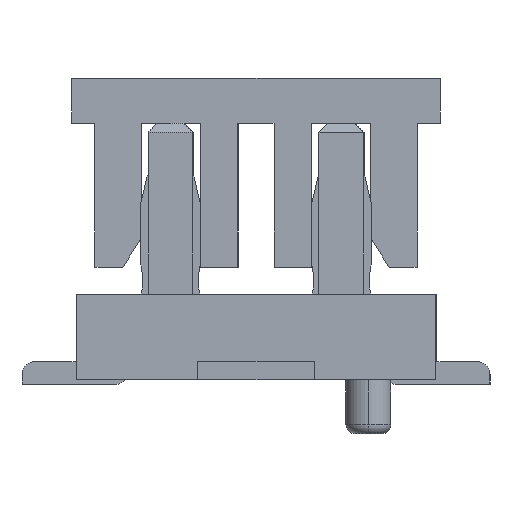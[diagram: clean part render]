
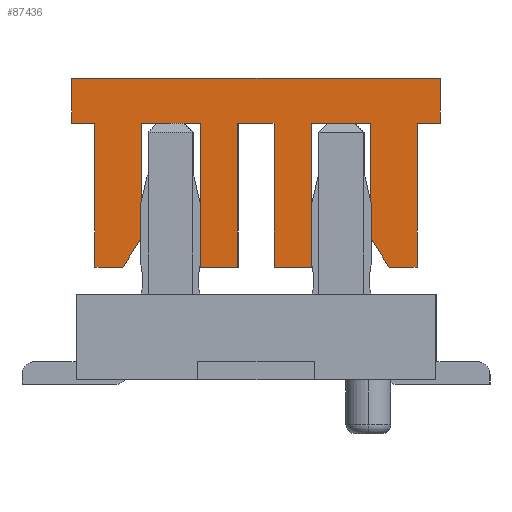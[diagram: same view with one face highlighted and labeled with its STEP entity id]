
A CAD part, left-side view. The second image highlights one B-rep face of the part: STEP entity #87436.
In plain terms, the highlighted planar face has unit normal (-1, 0, 0).
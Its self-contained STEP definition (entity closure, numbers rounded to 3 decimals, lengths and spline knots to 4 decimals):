
#86769=CARTESIAN_POINT('Vertex',(-4.,-0.62,1.25)) ;
#86774=CARTESIAN_POINT('Line Origine',(-4.,-0.41,1.25)) ;
#86778=CARTESIAN_POINT('Vertex',(-4.,-0.2,1.25)) ;
#86805=CARTESIAN_POINT('Line Origine',(-4.,-0.2,2.05)) ;
#86809=CARTESIAN_POINT('Vertex',(-4.,-0.2,2.85)) ;
#86836=CARTESIAN_POINT('Line Origine',(-4.,0.,2.85)) ;
#86840=CARTESIAN_POINT('Vertex',(-4.,0.2,2.85)) ;
#86867=CARTESIAN_POINT('Line Origine',(-4.,0.2,2.05)) ;
#86871=CARTESIAN_POINT('Vertex',(-4.,0.2,1.25)) ;
#86893=CARTESIAN_POINT('Line Origine',(-4.,0.41,1.25)) ;
#86897=CARTESIAN_POINT('Vertex',(-4.,0.62,1.25)) ;
#86924=CARTESIAN_POINT('Line Origine',(-4.,0.62,2.05)) ;
#86928=CARTESIAN_POINT('Vertex',(-4.,0.62,2.85)) ;
#86950=CARTESIAN_POINT('Line Origine',(-4.,0.945,2.85)) ;
#86954=CARTESIAN_POINT('Vertex',(-4.,1.27,2.85)) ;
#86981=CARTESIAN_POINT('Line Origine',(-4.,1.27,2.215)) ;
#86985=CARTESIAN_POINT('Vertex',(-4.,1.27,1.58)) ;
#87012=CARTESIAN_POINT('Line Origine',(-4.,1.375,1.415)) ;
#87016=CARTESIAN_POINT('Vertex',(-4.,1.48,1.25)) ;
#87038=CARTESIAN_POINT('Line Origine',(-4.,1.635,1.25)) ;
#87042=CARTESIAN_POINT('Vertex',(-4.,1.79,1.25)) ;
#87069=CARTESIAN_POINT('Line Origine',(-4.,1.79,2.05)) ;
#87073=CARTESIAN_POINT('Vertex',(-4.,1.79,2.85)) ;
#87095=CARTESIAN_POINT('Line Origine',(-4.,1.92,2.85)) ;
#87099=CARTESIAN_POINT('Vertex',(-4.,2.05,2.85)) ;
#87126=CARTESIAN_POINT('Line Origine',(-4.,2.05,3.1)) ;
#87130=CARTESIAN_POINT('Vertex',(-4.,2.05,3.35)) ;
#87157=CARTESIAN_POINT('Line Origine',(-4.,0.,3.35)) ;
#87161=CARTESIAN_POINT('Vertex',(-4.,-2.05,3.35)) ;
#87188=CARTESIAN_POINT('Line Origine',(-4.,-2.05,3.1)) ;
#87192=CARTESIAN_POINT('Vertex',(-4.,-2.05,2.85)) ;
#87214=CARTESIAN_POINT('Line Origine',(-4.,-1.92,2.85)) ;
#87218=CARTESIAN_POINT('Vertex',(-4.,-1.79,2.85)) ;
#87245=CARTESIAN_POINT('Line Origine',(-4.,-1.79,2.05)) ;
#87249=CARTESIAN_POINT('Vertex',(-4.,-1.79,1.25)) ;
#87271=CARTESIAN_POINT('Line Origine',(-4.,-1.635,1.25)) ;
#87275=CARTESIAN_POINT('Vertex',(-4.,-1.48,1.25)) ;
#87302=CARTESIAN_POINT('Line Origine',(-4.,-1.375,1.415)) ;
#87306=CARTESIAN_POINT('Vertex',(-4.,-1.27,1.58)) ;
#87333=CARTESIAN_POINT('Line Origine',(-4.,-1.27,2.215)) ;
#87337=CARTESIAN_POINT('Vertex',(-4.,-1.27,2.85)) ;
#87359=CARTESIAN_POINT('Line Origine',(-4.,-0.945,2.85)) ;
#87363=CARTESIAN_POINT('Vertex',(-4.,-0.62,2.85)) ;
#87390=CARTESIAN_POINT('Line Origine',(-4.,-0.62,2.05)) ;
#87407=CARTESIAN_POINT('Axis2P3D Location',(-4.,0.,0.)) ;
#86775=DIRECTION('Vector Direction',(0.,1.,0.)) ;
#86806=DIRECTION('Vector Direction',(0.,0.,1.)) ;
#86837=DIRECTION('Vector Direction',(0.,1.,0.)) ;
#86868=DIRECTION('Vector Direction',(0.,0.,-1.)) ;
#86894=DIRECTION('Vector Direction',(0.,1.,0.)) ;
#86925=DIRECTION('Vector Direction',(0.,0.,1.)) ;
#86951=DIRECTION('Vector Direction',(0.,1.,0.)) ;
#86982=DIRECTION('Vector Direction',(0.,0.,-1.)) ;
#87013=DIRECTION('Vector Direction',(0.,0.537,-0.844)) ;
#87039=DIRECTION('Vector Direction',(0.,1.,0.)) ;
#87070=DIRECTION('Vector Direction',(0.,0.,1.)) ;
#87096=DIRECTION('Vector Direction',(0.,1.,0.)) ;
#87127=DIRECTION('Vector Direction',(0.,0.,1.)) ;
#87158=DIRECTION('Vector Direction',(0.,1.,0.)) ;
#87189=DIRECTION('Vector Direction',(0.,0.,1.)) ;
#87215=DIRECTION('Vector Direction',(0.,-1.,0.)) ;
#87246=DIRECTION('Vector Direction',(0.,0.,1.)) ;
#87272=DIRECTION('Vector Direction',(0.,-1.,0.)) ;
#87303=DIRECTION('Vector Direction',(0.,-0.537,-0.844)) ;
#87334=DIRECTION('Vector Direction',(0.,0.,-1.)) ;
#87360=DIRECTION('Vector Direction',(0.,-1.,0.)) ;
#87391=DIRECTION('Vector Direction',(0.,0.,1.)) ;
#87408=DIRECTION('Axis2P3D Direction',(1.,0.,0.)) ;
#87409=DIRECTION('Axis2P3D XDirection',(0.,1.,0.)) ;
#87410=AXIS2_PLACEMENT_3D('Plane Axis2P3D',#87407,#87408,#87409) ;
#87413=ORIENTED_EDGE('',*,*,#87394,.F.) ;
#87414=ORIENTED_EDGE('',*,*,#87365,.F.) ;
#87415=ORIENTED_EDGE('',*,*,#87339,.F.) ;
#87416=ORIENTED_EDGE('',*,*,#87308,.F.) ;
#87417=ORIENTED_EDGE('',*,*,#87277,.F.) ;
#87418=ORIENTED_EDGE('',*,*,#87251,.F.) ;
#87419=ORIENTED_EDGE('',*,*,#87220,.F.) ;
#87420=ORIENTED_EDGE('',*,*,#87194,.F.) ;
#87421=ORIENTED_EDGE('',*,*,#87163,.F.) ;
#87422=ORIENTED_EDGE('',*,*,#87132,.F.) ;
#87423=ORIENTED_EDGE('',*,*,#87101,.F.) ;
#87424=ORIENTED_EDGE('',*,*,#87075,.F.) ;
#87425=ORIENTED_EDGE('',*,*,#87044,.F.) ;
#87426=ORIENTED_EDGE('',*,*,#87018,.F.) ;
#87427=ORIENTED_EDGE('',*,*,#86987,.F.) ;
#87428=ORIENTED_EDGE('',*,*,#86956,.F.) ;
#87429=ORIENTED_EDGE('',*,*,#86930,.F.) ;
#87430=ORIENTED_EDGE('',*,*,#86899,.F.) ;
#87431=ORIENTED_EDGE('',*,*,#86873,.F.) ;
#87432=ORIENTED_EDGE('',*,*,#86842,.F.) ;
#87433=ORIENTED_EDGE('',*,*,#86811,.F.) ;
#87434=ORIENTED_EDGE('',*,*,#86780,.F.) ;
#86776=VECTOR('Line Direction',#86775,1.) ;
#86807=VECTOR('Line Direction',#86806,1.) ;
#86838=VECTOR('Line Direction',#86837,1.) ;
#86869=VECTOR('Line Direction',#86868,1.) ;
#86895=VECTOR('Line Direction',#86894,1.) ;
#86926=VECTOR('Line Direction',#86925,1.) ;
#86952=VECTOR('Line Direction',#86951,1.) ;
#86983=VECTOR('Line Direction',#86982,1.) ;
#87014=VECTOR('Line Direction',#87013,1.) ;
#87040=VECTOR('Line Direction',#87039,1.) ;
#87071=VECTOR('Line Direction',#87070,1.) ;
#87097=VECTOR('Line Direction',#87096,1.) ;
#87128=VECTOR('Line Direction',#87127,1.) ;
#87159=VECTOR('Line Direction',#87158,1.) ;
#87190=VECTOR('Line Direction',#87189,1.) ;
#87216=VECTOR('Line Direction',#87215,1.) ;
#87247=VECTOR('Line Direction',#87246,1.) ;
#87273=VECTOR('Line Direction',#87272,1.) ;
#87304=VECTOR('Line Direction',#87303,1.) ;
#87335=VECTOR('Line Direction',#87334,1.) ;
#87361=VECTOR('Line Direction',#87360,1.) ;
#87392=VECTOR('Line Direction',#87391,1.) ;
#87436=ADVANCED_FACE('\X2\76D65B50\X0\',(#87435),#87411,.F.) ;
#86780=EDGE_CURVE('',#86770,#86779,#86777,.T.) ;
#86811=EDGE_CURVE('',#86779,#86810,#86808,.T.) ;
#86842=EDGE_CURVE('',#86810,#86841,#86839,.T.) ;
#86873=EDGE_CURVE('',#86841,#86872,#86870,.T.) ;
#86899=EDGE_CURVE('',#86872,#86898,#86896,.T.) ;
#86930=EDGE_CURVE('',#86898,#86929,#86927,.T.) ;
#86956=EDGE_CURVE('',#86929,#86955,#86953,.T.) ;
#86987=EDGE_CURVE('',#86955,#86986,#86984,.T.) ;
#87018=EDGE_CURVE('',#86986,#87017,#87015,.T.) ;
#87044=EDGE_CURVE('',#87017,#87043,#87041,.T.) ;
#87075=EDGE_CURVE('',#87043,#87074,#87072,.T.) ;
#87101=EDGE_CURVE('',#87074,#87100,#87098,.T.) ;
#87132=EDGE_CURVE('',#87100,#87131,#87129,.T.) ;
#87163=EDGE_CURVE('',#87131,#87162,#87160,.F.) ;
#87194=EDGE_CURVE('',#87162,#87193,#87191,.F.) ;
#87220=EDGE_CURVE('',#87193,#87219,#87217,.F.) ;
#87251=EDGE_CURVE('',#87219,#87250,#87248,.F.) ;
#87277=EDGE_CURVE('',#87250,#87276,#87274,.F.) ;
#87308=EDGE_CURVE('',#87276,#87307,#87305,.F.) ;
#87339=EDGE_CURVE('',#87307,#87338,#87336,.F.) ;
#87365=EDGE_CURVE('',#87338,#87364,#87362,.F.) ;
#87394=EDGE_CURVE('',#87364,#86770,#87393,.F.) ;
#87412=EDGE_LOOP('',(#87413,#87414,#87415,#87416,#87417,#87418,#87419,#87420,#87421,#87422,#87423,#87424,#87425,#87426,#87427,#87428,#87429,#87430,#87431,#87432,#87433,#87434)) ;
#87435=FACE_OUTER_BOUND('',#87412,.T.) ;
#86777=LINE('Line',#86774,#86776) ;
#86808=LINE('Line',#86805,#86807) ;
#86839=LINE('Line',#86836,#86838) ;
#86870=LINE('Line',#86867,#86869) ;
#86896=LINE('Line',#86893,#86895) ;
#86927=LINE('Line',#86924,#86926) ;
#86953=LINE('Line',#86950,#86952) ;
#86984=LINE('Line',#86981,#86983) ;
#87015=LINE('Line',#87012,#87014) ;
#87041=LINE('Line',#87038,#87040) ;
#87072=LINE('Line',#87069,#87071) ;
#87098=LINE('Line',#87095,#87097) ;
#87129=LINE('Line',#87126,#87128) ;
#87160=LINE('Line',#87157,#87159) ;
#87191=LINE('Line',#87188,#87190) ;
#87217=LINE('Line',#87214,#87216) ;
#87248=LINE('Line',#87245,#87247) ;
#87274=LINE('Line',#87271,#87273) ;
#87305=LINE('Line',#87302,#87304) ;
#87336=LINE('Line',#87333,#87335) ;
#87362=LINE('Line',#87359,#87361) ;
#87393=LINE('Line',#87390,#87392) ;
#87411=PLANE('Plane',#87410) ;
#86770=VERTEX_POINT('',#86769) ;
#86779=VERTEX_POINT('',#86778) ;
#86810=VERTEX_POINT('',#86809) ;
#86841=VERTEX_POINT('',#86840) ;
#86872=VERTEX_POINT('',#86871) ;
#86898=VERTEX_POINT('',#86897) ;
#86929=VERTEX_POINT('',#86928) ;
#86955=VERTEX_POINT('',#86954) ;
#86986=VERTEX_POINT('',#86985) ;
#87017=VERTEX_POINT('',#87016) ;
#87043=VERTEX_POINT('',#87042) ;
#87074=VERTEX_POINT('',#87073) ;
#87100=VERTEX_POINT('',#87099) ;
#87131=VERTEX_POINT('',#87130) ;
#87162=VERTEX_POINT('',#87161) ;
#87193=VERTEX_POINT('',#87192) ;
#87219=VERTEX_POINT('',#87218) ;
#87250=VERTEX_POINT('',#87249) ;
#87276=VERTEX_POINT('',#87275) ;
#87307=VERTEX_POINT('',#87306) ;
#87338=VERTEX_POINT('',#87337) ;
#87364=VERTEX_POINT('',#87363) ;
